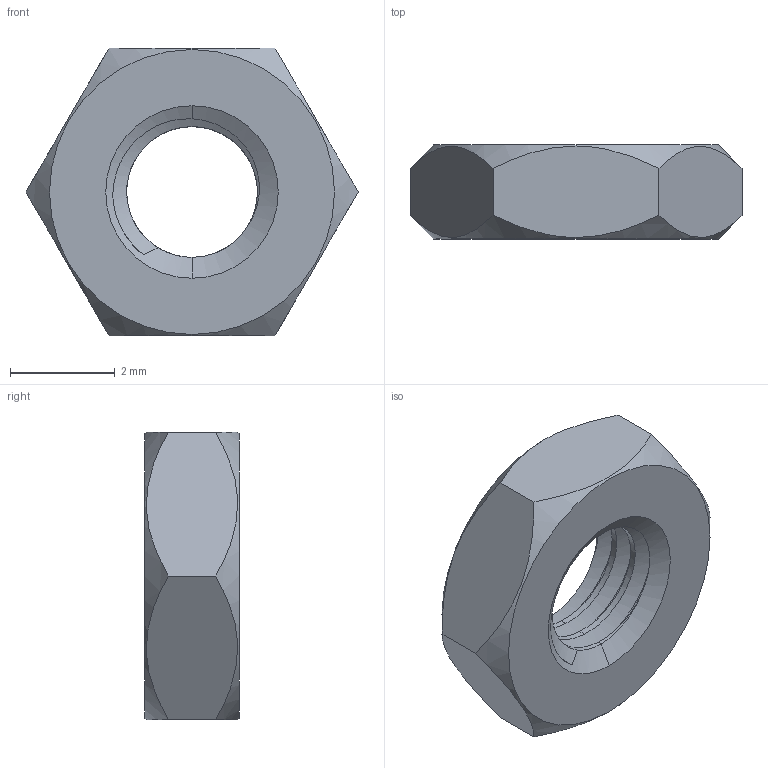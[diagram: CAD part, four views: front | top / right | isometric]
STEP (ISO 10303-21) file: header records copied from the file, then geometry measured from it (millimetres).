
FILE_DESCRIPTION (( 'STEP AP203' ), '1' );
FILE_NAME ('TANM-304-M3.STEP', '2026-08-25T09:03:55', ( '' ), ( '' ), 'SwSTEP 2.0', 'SolidWorks 2020', '' );
FILE_SCHEMA (( 'CONFIG_CONTROL_DESIGN' ));
Length unit declared in the file: millimetre
Products named in the file (1): TANM-304-M3
Bounding box: 6.35 x 1.8 x 5.5 mm (x, y, z)
Volume: 35.3 mm3; surface area: 92.6 mm2
Topology: 1 solids, 1 shells, 26 faces, 73 edges, 49 vertices
Faces by surface type: cone 8, plane 8, cylinder 7, bspline 3
Entity records: 2460 total; most frequent: CARTESIAN_POINT 1797, ORIENTED_EDGE 146, DIRECTION 90, EDGE_CURVE 73, VERTEX_POINT 49, AXIS2_PLACEMENT_3D 35, B_SPLINE_CURVE_WITH_KNOTS 33, EDGE_LOOP 28
